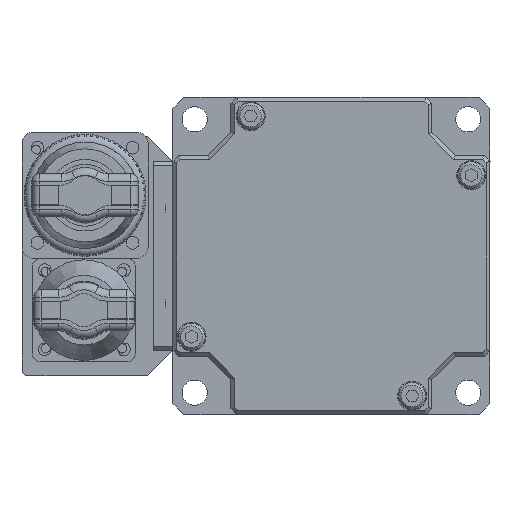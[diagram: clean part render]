
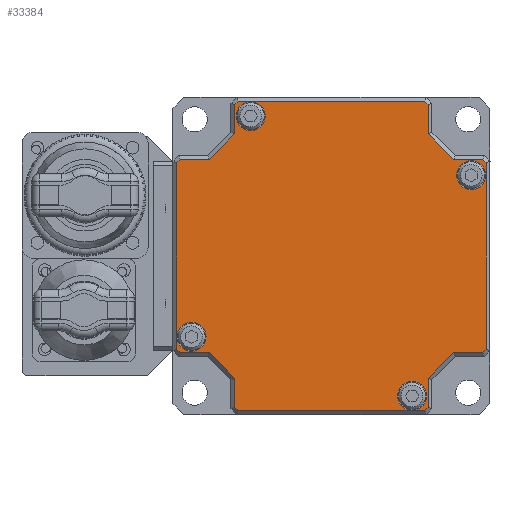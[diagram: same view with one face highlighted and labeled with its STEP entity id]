
A CAD part, left-side view. The second image highlights one B-rep face of the part: STEP entity #33384.
In plain terms, the highlighted planar face has unit normal (-1, 0, 0).
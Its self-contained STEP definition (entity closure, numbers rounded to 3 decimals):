
#2478=CIRCLE('',#36122,3.75);
#2479=CIRCLE('',#36123,3.75);
#2480=CIRCLE('',#36124,3.75);
#2481=CIRCLE('',#36125,3.75);
#4923=VERTEX_POINT('',#54740);
#4924=VERTEX_POINT('',#54742);
#4925=VERTEX_POINT('',#54744);
#4926=VERTEX_POINT('',#54746);
#4927=VERTEX_POINT('',#54748);
#4928=VERTEX_POINT('',#54749);
#4929=VERTEX_POINT('',#54751);
#4930=VERTEX_POINT('',#54753);
#4931=VERTEX_POINT('',#54755);
#4932=VERTEX_POINT('',#54757);
#4933=VERTEX_POINT('',#54759);
#4934=VERTEX_POINT('',#54761);
#4935=VERTEX_POINT('',#54763);
#4936=VERTEX_POINT('',#54765);
#4937=VERTEX_POINT('',#54767);
#4938=VERTEX_POINT('',#54769);
#4939=VERTEX_POINT('',#54771);
#4940=VERTEX_POINT('',#54773);
#4941=VERTEX_POINT('',#54775);
#4942=VERTEX_POINT('',#54777);
#4943=VERTEX_POINT('',#54779);
#4944=VERTEX_POINT('',#54781);
#4945=VERTEX_POINT('',#54783);
#4946=VERTEX_POINT('',#54785);
#4947=VERTEX_POINT('',#54787);
#4948=VERTEX_POINT('',#54789);
#4949=VERTEX_POINT('',#54791);
#4950=VERTEX_POINT('',#54793);
#8071=VECTOR('',#41732,1.);
#8072=VECTOR('',#41733,1.);
#8073=VECTOR('',#41734,1.);
#8074=VECTOR('',#41735,1.);
#8075=VECTOR('',#41736,1.);
#8076=VECTOR('',#41737,1.);
#8077=VECTOR('',#41738,1.);
#8078=VECTOR('',#41739,1.);
#8079=VECTOR('',#41740,1.);
#8080=VECTOR('',#41741,1.);
#8081=VECTOR('',#41742,1.);
#8082=VECTOR('',#41743,1.);
#8083=VECTOR('',#41744,1.);
#8084=VECTOR('',#41745,1.);
#8085=VECTOR('',#41746,1.);
#8086=VECTOR('',#41747,1.);
#8087=VECTOR('',#41748,1.);
#8088=VECTOR('',#41749,1.);
#8089=VECTOR('',#41750,1.);
#8090=VECTOR('',#41751,1.);
#8091=VECTOR('',#41752,1.);
#8092=VECTOR('',#41753,1.);
#8093=VECTOR('',#41754,1.);
#8094=VECTOR('',#41755,1.);
#10595=LINE('',#54747,#8071);
#10596=LINE('',#54750,#8072);
#10597=LINE('',#54752,#8073);
#10598=LINE('',#54754,#8074);
#10599=LINE('',#54756,#8075);
#10600=LINE('',#54758,#8076);
#10601=LINE('',#54760,#8077);
#10602=LINE('',#54762,#8078);
#10603=LINE('',#54764,#8079);
#10604=LINE('',#54766,#8080);
#10605=LINE('',#54768,#8081);
#10606=LINE('',#54770,#8082);
#10607=LINE('',#54772,#8083);
#10608=LINE('',#54774,#8084);
#10609=LINE('',#54776,#8085);
#10610=LINE('',#54778,#8086);
#10611=LINE('',#54780,#8087);
#10612=LINE('',#54782,#8088);
#10613=LINE('',#54784,#8089);
#10614=LINE('',#54786,#8090);
#10615=LINE('',#54788,#8091);
#10616=LINE('',#54790,#8092);
#10617=LINE('',#54792,#8093);
#10618=LINE('',#54794,#8094);
#13985=EDGE_CURVE('',#4923,#4923,#2478,.T.);
#13986=EDGE_CURVE('',#4924,#4924,#2479,.T.);
#13987=EDGE_CURVE('',#4925,#4925,#2480,.T.);
#13988=EDGE_CURVE('',#4926,#4926,#2481,.T.);
#13989=EDGE_CURVE('',#4927,#4928,#10595,.T.);
#13990=EDGE_CURVE('',#4929,#4927,#10596,.T.);
#13991=EDGE_CURVE('',#4930,#4929,#10597,.T.);
#13992=EDGE_CURVE('',#4931,#4930,#10598,.T.);
#13993=EDGE_CURVE('',#4932,#4931,#10599,.T.);
#13994=EDGE_CURVE('',#4933,#4932,#10600,.T.);
#13995=EDGE_CURVE('',#4934,#4933,#10601,.T.);
#13996=EDGE_CURVE('',#4935,#4934,#10602,.T.);
#13997=EDGE_CURVE('',#4936,#4935,#10603,.T.);
#13998=EDGE_CURVE('',#4937,#4936,#10604,.T.);
#13999=EDGE_CURVE('',#4938,#4937,#10605,.T.);
#14000=EDGE_CURVE('',#4939,#4938,#10606,.T.);
#14001=EDGE_CURVE('',#4940,#4939,#10607,.T.);
#14002=EDGE_CURVE('',#4941,#4940,#10608,.T.);
#14003=EDGE_CURVE('',#4942,#4941,#10609,.T.);
#14004=EDGE_CURVE('',#4943,#4942,#10610,.T.);
#14005=EDGE_CURVE('',#4944,#4943,#10611,.T.);
#14006=EDGE_CURVE('',#4945,#4944,#10612,.T.);
#14007=EDGE_CURVE('',#4946,#4945,#10613,.T.);
#14008=EDGE_CURVE('',#4947,#4946,#10614,.T.);
#14009=EDGE_CURVE('',#4948,#4947,#10615,.T.);
#14010=EDGE_CURVE('',#4949,#4948,#10616,.T.);
#14011=EDGE_CURVE('',#4950,#4949,#10617,.T.);
#14012=EDGE_CURVE('',#4928,#4950,#10618,.T.);
#21060=ORIENTED_EDGE('',*,*,#13985,.T.);
#21061=ORIENTED_EDGE('',*,*,#13986,.T.);
#21062=ORIENTED_EDGE('',*,*,#13987,.T.);
#21063=ORIENTED_EDGE('',*,*,#13988,.T.);
#21064=ORIENTED_EDGE('',*,*,#13989,.F.);
#21065=ORIENTED_EDGE('',*,*,#13990,.F.);
#21066=ORIENTED_EDGE('',*,*,#13991,.F.);
#21067=ORIENTED_EDGE('',*,*,#13992,.F.);
#21068=ORIENTED_EDGE('',*,*,#13993,.F.);
#21069=ORIENTED_EDGE('',*,*,#13994,.F.);
#21070=ORIENTED_EDGE('',*,*,#13995,.F.);
#21071=ORIENTED_EDGE('',*,*,#13996,.F.);
#21072=ORIENTED_EDGE('',*,*,#13997,.F.);
#21073=ORIENTED_EDGE('',*,*,#13998,.F.);
#21074=ORIENTED_EDGE('',*,*,#13999,.F.);
#21075=ORIENTED_EDGE('',*,*,#14000,.F.);
#21076=ORIENTED_EDGE('',*,*,#14001,.F.);
#21077=ORIENTED_EDGE('',*,*,#14002,.F.);
#21078=ORIENTED_EDGE('',*,*,#14003,.F.);
#21079=ORIENTED_EDGE('',*,*,#14004,.F.);
#21080=ORIENTED_EDGE('',*,*,#14005,.F.);
#21081=ORIENTED_EDGE('',*,*,#14006,.F.);
#21082=ORIENTED_EDGE('',*,*,#14007,.F.);
#21083=ORIENTED_EDGE('',*,*,#14008,.F.);
#21084=ORIENTED_EDGE('',*,*,#14009,.F.);
#21085=ORIENTED_EDGE('',*,*,#14010,.F.);
#21086=ORIENTED_EDGE('',*,*,#14011,.F.);
#21087=ORIENTED_EDGE('',*,*,#14012,.F.);
#28102=EDGE_LOOP('',(#21060));
#28103=EDGE_LOOP('',(#21061));
#28104=EDGE_LOOP('',(#21062));
#28105=EDGE_LOOP('',(#21063));
#28106=EDGE_LOOP('',(#21064,#21065,#21066,#21067,#21068,#21069,#21070,#21071,
#21072,#21073,#21074,#21075,#21076,#21077,#21078,#21079,#21080,#21081,#21082,
#21083,#21084,#21085,#21086,#21087));
#30842=FACE_BOUND('',#28102,.T.);
#30843=FACE_BOUND('',#28103,.T.);
#30844=FACE_BOUND('',#28104,.T.);
#30845=FACE_BOUND('',#28105,.T.);
#30846=FACE_BOUND('',#28106,.T.);
#33384=ADVANCED_FACE('',(#30842,#30843,#30844,#30845,#30846),#75547,.F.);
#36121=AXIS2_PLACEMENT_3D('',#54738,#41723,$);
#36122=AXIS2_PLACEMENT_3D('',#54739,#41724,#41725);
#36123=AXIS2_PLACEMENT_3D('',#54741,#41726,#41727);
#36124=AXIS2_PLACEMENT_3D('',#54743,#41728,#41729);
#36125=AXIS2_PLACEMENT_3D('',#54745,#41730,#41731);
#41723=DIRECTION('',(1.,0.,0.));
#41724=DIRECTION('',(1.,0.,0.));
#41725=DIRECTION('',(0.,-3.75,0.));
#41726=DIRECTION('',(1.,0.,0.));
#41727=DIRECTION('',(0.,0.,-3.75));
#41728=DIRECTION('',(1.,0.,0.));
#41729=DIRECTION('',(0.,3.75,0.));
#41730=DIRECTION('',(1.,0.,0.));
#41731=DIRECTION('',(0.,0.,3.75));
#41732=DIRECTION('',(0.,0.,1.));
#41733=DIRECTION('',(0.,0.707,0.707));
#41734=DIRECTION('',(0.,1.,0.));
#41735=DIRECTION('',(0.,0.707,0.707));
#41736=DIRECTION('',(0.,0.,1.));
#41737=DIRECTION('',(0.,0.707,0.707));
#41738=DIRECTION('',(0.,1.,0.));
#41739=DIRECTION('',(0.,0.707,-0.707));
#41740=DIRECTION('',(0.,0.,-1.));
#41741=DIRECTION('',(0.,0.707,-0.707));
#41742=DIRECTION('',(0.,1.,0.));
#41743=DIRECTION('',(0.,0.707,-0.707));
#41744=DIRECTION('',(0.,0.,-1.));
#41745=DIRECTION('',(0.,-0.707,-0.707));
#41746=DIRECTION('',(0.,-1.,0.));
#41747=DIRECTION('',(0.,-0.707,-0.707));
#41748=DIRECTION('',(0.,0.,-1.));
#41749=DIRECTION('',(0.,-0.707,-0.707));
#41750=DIRECTION('',(0.,-1.,0.));
#41751=DIRECTION('',(0.,-0.707,0.707));
#41752=DIRECTION('',(0.,0.,1.));
#41753=DIRECTION('',(0.,-0.707,0.707));
#41754=DIRECTION('',(0.,-1.,0.));
#41755=DIRECTION('',(0.,-0.707,0.707));
#54738=CARTESIAN_POINT('',(49.949,145.393,53.255));
#54739=CARTESIAN_POINT('',(49.949,125.268,64.912));
#54740=CARTESIAN_POINT('',(49.949,121.518,64.912));
#54741=CARTESIAN_POINT('',(49.949,68.236,49.63));
#54742=CARTESIAN_POINT('',(49.949,68.236,45.88));
#54743=CARTESIAN_POINT('',(49.949,83.518,-7.402));
#54744=CARTESIAN_POINT('',(49.949,87.268,-7.402));
#54745=CARTESIAN_POINT('',(49.949,140.549,7.88));
#54746=CARTESIAN_POINT('',(49.949,140.549,11.63));
#54747=CARTESIAN_POINT('',(49.949,144.393,28.755));
#54748=CARTESIAN_POINT('',(49.949,144.393,4.669));
#54749=CARTESIAN_POINT('',(49.949,144.393,52.841));
#54750=CARTESIAN_POINT('',(49.949,156.186,16.462));
#54751=CARTESIAN_POINT('',(49.949,143.479,3.755));
#54752=CARTESIAN_POINT('',(49.949,140.884,3.755));
#54753=CARTESIAN_POINT('',(49.949,135.961,3.755));
#54754=CARTESIAN_POINT('',(49.949,147.557,15.35));
#54755=CARTESIAN_POINT('',(49.949,129.393,-2.814));
#54756=CARTESIAN_POINT('',(49.949,129.393,21.255));
#54757=CARTESIAN_POINT('',(49.949,129.393,-10.331));
#54758=CARTESIAN_POINT('',(49.949,148.686,8.962));
#54759=CARTESIAN_POINT('',(49.949,128.479,-11.245));
#54760=CARTESIAN_POINT('',(49.949,112.643,-11.245));
#54761=CARTESIAN_POINT('',(49.949,80.307,-11.245));
#54762=CARTESIAN_POINT('',(49.949,79.85,-10.788));
#54763=CARTESIAN_POINT('',(49.949,79.393,-10.331));
#54764=CARTESIAN_POINT('',(49.949,79.393,25.014));
#54765=CARTESIAN_POINT('',(49.949,79.393,-2.814));
#54766=CARTESIAN_POINT('',(49.949,78.738,-2.159));
#54767=CARTESIAN_POINT('',(49.949,72.824,3.755));
#54768=CARTESIAN_POINT('',(49.949,105.143,3.755));
#54769=CARTESIAN_POINT('',(49.949,65.307,3.755));
#54770=CARTESIAN_POINT('',(49.949,72.35,-3.288));
#54771=CARTESIAN_POINT('',(49.949,64.393,4.669));
#54772=CARTESIAN_POINT('',(49.949,64.393,53.255));
#54773=CARTESIAN_POINT('',(49.949,64.393,52.841));
#54774=CARTESIAN_POINT('',(49.949,85.35,73.798));
#54775=CARTESIAN_POINT('',(49.949,65.307,53.755));
#54776=CARTESIAN_POINT('',(49.949,108.902,53.755));
#54777=CARTESIAN_POINT('',(49.949,72.824,53.755));
#54778=CARTESIAN_POINT('',(49.949,93.979,74.91));
#54779=CARTESIAN_POINT('',(49.949,79.393,60.324));
#54780=CARTESIAN_POINT('',(49.949,79.393,60.755));
#54781=CARTESIAN_POINT('',(49.949,79.393,67.841));
#54782=CARTESIAN_POINT('',(49.949,92.85,81.298));
#54783=CARTESIAN_POINT('',(49.949,80.307,68.755));
#54784=CARTESIAN_POINT('',(49.949,137.143,68.755));
#54785=CARTESIAN_POINT('',(49.949,128.479,68.755));
#54786=CARTESIAN_POINT('',(49.949,137.186,60.048));
#54787=CARTESIAN_POINT('',(49.949,129.393,67.841));
#54788=CARTESIAN_POINT('',(49.949,129.393,56.996));
#54789=CARTESIAN_POINT('',(49.949,129.393,60.324));
#54790=CARTESIAN_POINT('',(49.949,138.298,51.419));
#54791=CARTESIAN_POINT('',(49.949,135.961,53.755));
#54792=CARTESIAN_POINT('',(49.949,144.643,53.755));
#54793=CARTESIAN_POINT('',(49.949,143.479,53.755));
#54794=CARTESIAN_POINT('',(49.949,144.686,52.548));
#75547=PLANE('',#36121);
